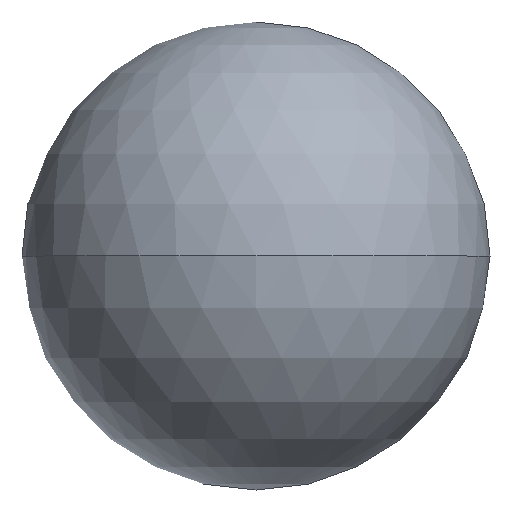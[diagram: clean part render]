
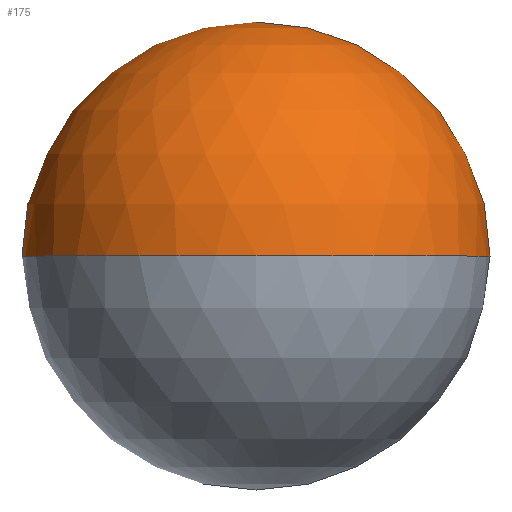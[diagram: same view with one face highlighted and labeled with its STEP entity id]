
A CAD part, left-side view. The second image highlights one B-rep face of the part: STEP entity #175.
In plain terms, the highlighted spherical face has radius 600 mm.
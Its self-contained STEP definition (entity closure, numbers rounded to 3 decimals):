
#7 = CARTESIAN_POINT ( 'NONE',  ( 0., -600., 0. ) ) ;
#8 = CIRCLE ( 'NONE', #158, 600. ) ;
#30 = DIRECTION ( 'NONE',  ( 0., 0., 1. ) ) ;
#42 = DIRECTION ( 'NONE',  ( 1., 0., 0. ) ) ;
#62 = DIRECTION ( 'NONE',  ( -1., 0., 0. ) ) ;
#63 = CARTESIAN_POINT ( 'NONE',  ( 0., 0., 0. ) ) ;
#66 = CARTESIAN_POINT ( 'NONE',  ( 600., 0., 0. ) ) ;
#67 = AXIS2_PLACEMENT_3D ( 'NONE', #103, #298, #30 ) ;
#79 = CARTESIAN_POINT ( 'NONE',  ( 0., 600., 0. ) ) ;
#83 = AXIS2_PLACEMENT_3D ( 'NONE', #334, #268, #101 ) ;
#84 = CARTESIAN_POINT ( 'NONE',  ( 0., 0., 0. ) ) ;
#88 = EDGE_CURVE ( 'NONE', #183, #322, #326, .T. ) ;
#91 = CARTESIAN_POINT ( 'NONE',  ( 600., -0.1, 0. ) ) ;
#92 = DIRECTION ( 'NONE',  ( 0., 0., -1. ) ) ;
#98 = CIRCLE ( 'NONE', #83, 600. ) ;
#100 = FACE_OUTER_BOUND ( 'NONE', #212, .T. ) ;
#101 = DIRECTION ( 'NONE',  ( 1., 0., 0. ) ) ;
#102 = EDGE_CURVE ( 'NONE', #104, #148, #98, .T. ) ;
#103 = CARTESIAN_POINT ( 'NONE',  ( 600., 0., 0. ) ) ;
#104 = VERTEX_POINT ( 'NONE', #79 ) ;
#111 = CIRCLE ( 'NONE', #315, 600. ) ;
#112 = DIRECTION ( 'NONE',  ( 1., 0., 0. ) ) ;
#125 = ORIENTED_EDGE ( 'NONE', *, *, #102, .T. ) ;
#126 = EDGE_CURVE ( 'NONE', #322, #148, #8, .T. ) ;
#142 = DIRECTION ( 'NONE',  ( -1., 0., 0. ) ) ;
#148 = VERTEX_POINT ( 'NONE', #7 ) ;
#151 = DIRECTION ( 'NONE',  ( 0., 0., 1. ) ) ;
#158 = AXIS2_PLACEMENT_3D ( 'NONE', #193, #247, #142 ) ;
#159 = VERTEX_POINT ( 'NONE', #166 ) ;
#166 = CARTESIAN_POINT ( 'NONE',  ( 600., 0.1, 0. ) ) ;
#175 = ADVANCED_FACE ( 'NONE', ( #100 ), #217, .T. ) ;
#183 = VERTEX_POINT ( 'NONE', #305 ) ;
#184 = ORIENTED_EDGE ( 'NONE', *, *, #126, .F. ) ;
#193 = CARTESIAN_POINT ( 'NONE',  ( 0., 0., 0. ) ) ;
#195 = ORIENTED_EDGE ( 'NONE', *, *, #340, .F. ) ;
#198 = ORIENTED_EDGE ( 'NONE', *, *, #88, .F. ) ;
#205 = CIRCLE ( 'NONE', #325, 0.1 ) ;
#212 = EDGE_LOOP ( 'NONE', ( #286, #125, #184, #198, #195 ) ) ;
#217 = SPHERICAL_SURFACE ( 'NONE', #321, 600. ) ;
#247 = DIRECTION ( 'NONE',  ( 0., 0., -1. ) ) ;
#268 = DIRECTION ( 'NONE',  ( 0., 0., 1. ) ) ;
#275 = DIRECTION ( 'NONE',  ( 0., 0., 1. ) ) ;
#286 = ORIENTED_EDGE ( 'NONE', *, *, #354, .F. ) ;
#298 = DIRECTION ( 'NONE',  ( 1., 0., 0. ) ) ;
#305 = CARTESIAN_POINT ( 'NONE',  ( 600., 0., 0.1 ) ) ;
#315 = AXIS2_PLACEMENT_3D ( 'NONE', #63, #92, #62 ) ;
#321 = AXIS2_PLACEMENT_3D ( 'NONE', #84, #275, #112 ) ;
#322 = VERTEX_POINT ( 'NONE', #91 ) ;
#325 = AXIS2_PLACEMENT_3D ( 'NONE', #66, #42, #151 ) ;
#326 = CIRCLE ( 'NONE', #67, 0.1 ) ;
#334 = CARTESIAN_POINT ( 'NONE',  ( 0., 0., 0. ) ) ;
#340 = EDGE_CURVE ( 'NONE', #159, #183, #205, .T. ) ;
#354 = EDGE_CURVE ( 'NONE', #104, #159, #111, .T. ) ;
